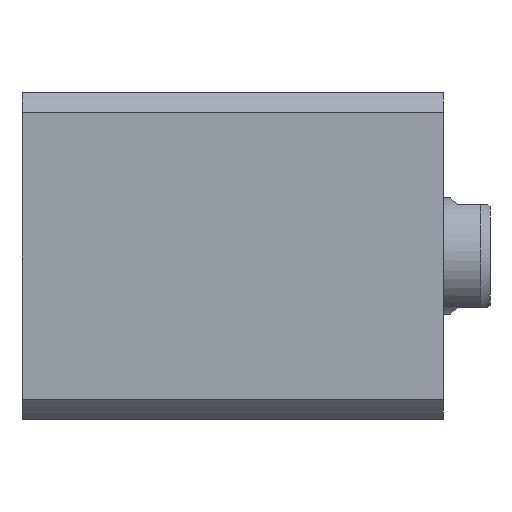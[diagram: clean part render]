
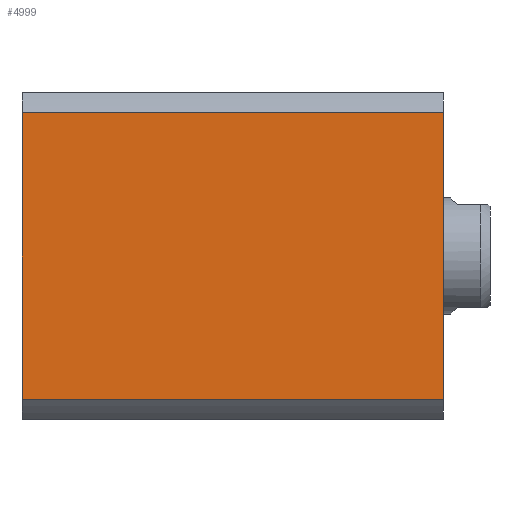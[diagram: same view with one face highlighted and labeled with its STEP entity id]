
A CAD part, left-side view. The second image highlights one B-rep face of the part: STEP entity #4999.
In plain terms, the highlighted planar face has unit normal (-1, 0, 0).
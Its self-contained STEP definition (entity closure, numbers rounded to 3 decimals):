
#21 = VERTEX_POINT ( 'NONE', #4990 ) ;
#54 = CARTESIAN_POINT ( 'NONE',  ( -35., 30.615, 300. ) ) ;
#340 = VECTOR ( 'NONE', #8723, 1000. ) ;
#851 = CARTESIAN_POINT ( 'NONE',  ( -35., 35., 0. ) ) ;
#893 = EDGE_CURVE ( 'NONE', #4890, #21, #9097, .T. ) ;
#1416 = VECTOR ( 'NONE', #9004, 1000. ) ;
#1718 = DIRECTION ( 'NONE',  ( 1., 0., 0. ) ) ;
#2213 = CARTESIAN_POINT ( 'NONE',  ( -35., 30.615, 0. ) ) ;
#2403 = CARTESIAN_POINT ( 'NONE',  ( -35., 30.615, 90. ) ) ;
#2405 = ORIENTED_EDGE ( 'NONE', *, *, #9000, .F. ) ;
#2450 = LINE ( 'NONE', #851, #340 ) ;
#2532 = ORIENTED_EDGE ( 'NONE', *, *, #7762, .F. ) ;
#3317 = VERTEX_POINT ( 'NONE', #2213 ) ;
#3414 = VECTOR ( 'NONE', #5568, 1000. ) ;
#3585 = CARTESIAN_POINT ( 'NONE',  ( -35., 35., 90. ) ) ;
#3647 = AXIS2_PLACEMENT_3D ( 'NONE', #7992, #1718, #7224 ) ;
#4064 = PLANE ( 'NONE',  #3647 ) ;
#4155 = FACE_OUTER_BOUND ( 'NONE', #10037, .T. ) ;
#4296 = VERTEX_POINT ( 'NONE', #2403 ) ;
#4361 = EDGE_CURVE ( 'NONE', #3317, #21, #2450, .T. ) ;
#4403 = CARTESIAN_POINT ( 'NONE',  ( -35., -30.615, 300. ) ) ;
#4631 = ORIENTED_EDGE ( 'NONE', *, *, #893, .F. ) ;
#4890 = VERTEX_POINT ( 'NONE', #7134 ) ;
#4990 = CARTESIAN_POINT ( 'NONE',  ( -35., -30.615, 0. ) ) ;
#4999 = ADVANCED_FACE ( 'NONE', ( #4155 ), #4064, .F. ) ;
#5568 = DIRECTION ( 'NONE',  ( 0., 0., 1. ) ) ;
#7117 = ORIENTED_EDGE ( 'NONE', *, *, #4361, .T. ) ;
#7134 = CARTESIAN_POINT ( 'NONE',  ( -35., -30.615, 90. ) ) ;
#7224 = DIRECTION ( 'NONE',  ( 0., 1., 0. ) ) ;
#7264 = VECTOR ( 'NONE', #10135, 1000. ) ;
#7762 = EDGE_CURVE ( 'NONE', #3317, #4296, #9658, .T. ) ;
#7992 = CARTESIAN_POINT ( 'NONE',  ( -35., 35., 90. ) ) ;
#8723 = DIRECTION ( 'NONE',  ( 0., -1., 0. ) ) ;
#9000 = EDGE_CURVE ( 'NONE', #4296, #4890, #9797, .T. ) ;
#9004 = DIRECTION ( 'NONE',  ( 0., -1., 0. ) ) ;
#9097 = LINE ( 'NONE', #4403, #7264 ) ;
#9658 = LINE ( 'NONE', #54, #3414 ) ;
#9797 = LINE ( 'NONE', #3585, #1416 ) ;
#10037 = EDGE_LOOP ( 'NONE', ( #4631, #2405, #2532, #7117 ) ) ;
#10135 = DIRECTION ( 'NONE',  ( 0., 0., -1. ) ) ;
